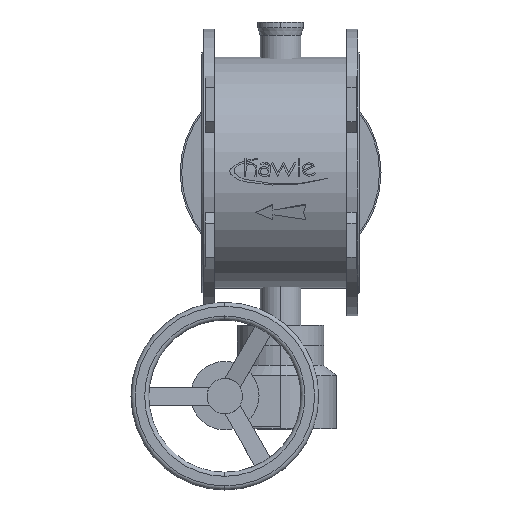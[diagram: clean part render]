
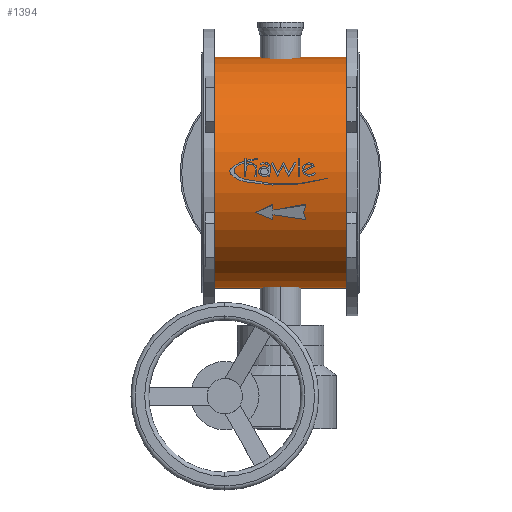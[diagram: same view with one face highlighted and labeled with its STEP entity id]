
A CAD part, top view. The second image highlights one B-rep face of the part: STEP entity #1394.
In plain terms, the highlighted cylindrical face has radius 228 mm (diameter 456 mm), a partial arc.
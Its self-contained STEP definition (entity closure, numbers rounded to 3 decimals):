
#1394=ADVANCED_FACE('',(#2743),#2744,.T.);
#2743=FACE_OUTER_BOUND('',#4403,.T.);
#2744=CYLINDRICAL_SURFACE('',#4404,228.0);
#4403=EDGE_LOOP('',(#6939,#6940,#6941,#6942));
#4404=AXIS2_PLACEMENT_3D('',#6943,#6944,#6945);
#6939=ORIENTED_EDGE('',*,*,#9012,.T.);
#6940=ORIENTED_EDGE('',*,*,#8655,.T.);
#6941=ORIENTED_EDGE('',*,*,#9014,.T.);
#6942=ORIENTED_EDGE('',*,*,#9595,.T.);
#6943=CARTESIAN_POINT('',(-285.5,0.,0.0));
#6944=DIRECTION('',(1.0,0.,0.0));
#6945=DIRECTION('',(0.,-1.0,0.0));
#8655=EDGE_CURVE('',#10057,#10058,#10059,.T.);
#9012=EDGE_CURVE('',#10673,#10057,#10674,.T.);
#9014=EDGE_CURVE('',#10058,#10675,#10677,.T.);
#9595=EDGE_CURVE('',#10675,#10673,#11541,.T.);
#10057=VERTEX_POINT('',#12083);
#10058=VERTEX_POINT('',#12084);
#10059=CIRCLE('',#12085,228.0);
#10673=VERTEX_POINT('',#12835);
#10674=LINE('',#12836,#12837);
#10675=VERTEX_POINT('',#12838);
#10677=LINE('',#12840,#12841);
#11541=CIRCLE('',#13947,228.0);
#12083=CARTESIAN_POINT('',(-24.5,-228.0,0.0));
#12084=CARTESIAN_POINT('',(-24.5,228.0,0.));
#12085=AXIS2_PLACEMENT_3D('',#14628,#14629,#14630);
#12835=CARTESIAN_POINT('',(-285.5,-228.0,0.0));
#12836=CARTESIAN_POINT('',(-285.5,-228.0,0.));
#12837=VECTOR('',#15211,1.0);
#12838=CARTESIAN_POINT('',(-285.5,228.0,0.));
#12840=CARTESIAN_POINT('',(-285.5,228.0,0.));
#12841=VECTOR('',#15215,1.0);
#13947=AXIS2_PLACEMENT_3D('',#15989,#15990,#15991);
#14628=CARTESIAN_POINT('',(-24.5,0.,0.0));
#14629=DIRECTION('',(-1.0,0.,0.0));
#14630=DIRECTION('',(0.,-1.0,0.0));
#15211=DIRECTION('',(1.0,0.,0.0));
#15215=DIRECTION('',(-1.0,0.,-0.0));
#15989=CARTESIAN_POINT('',(-285.5,0.,0.0));
#15990=DIRECTION('',(1.0,0.,0.0));
#15991=DIRECTION('',(0.,-1.0,0.0));
